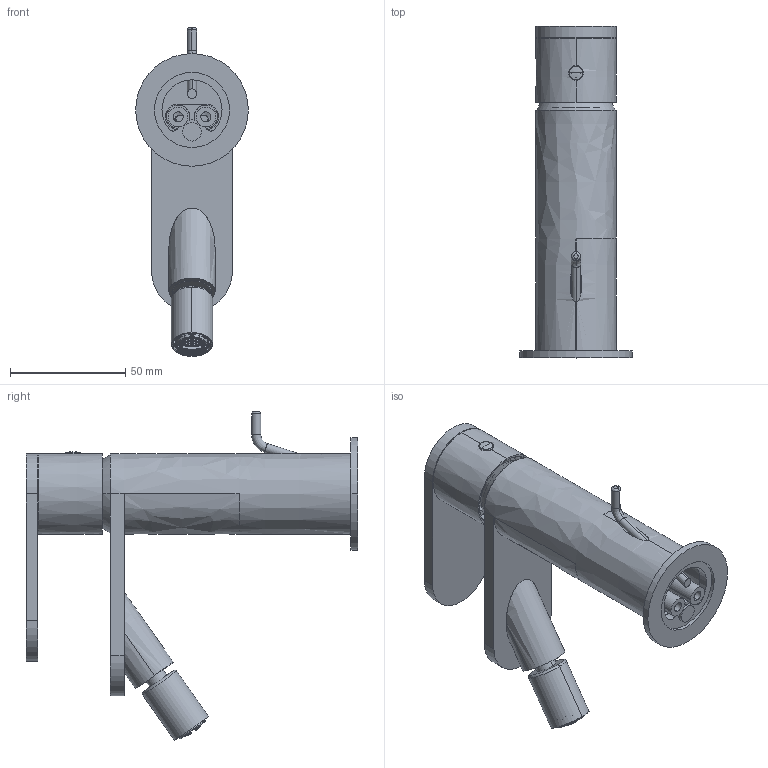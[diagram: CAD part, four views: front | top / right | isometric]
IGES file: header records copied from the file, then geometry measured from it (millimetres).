
Start section:  PTC IGES file: 79103.igs
Global section: file name: 79103.igs; native system: Creo Parametric by PTC Inc.; preprocessor: 2025443; author: carloff; organization: Unknown; date: 20261005.145530; units: millimetre
Bounding box: 48.8 x 143.74 x 142.41 mm (x, y, z)
Surface area: 83326 mm2 (no closed solid volume)
Topology: 0 solids, 0 shells, 3671 faces, 20879 edges, 20800 vertices
Faces by surface type: bspline 2256, revolution 1412, extrusion 3
